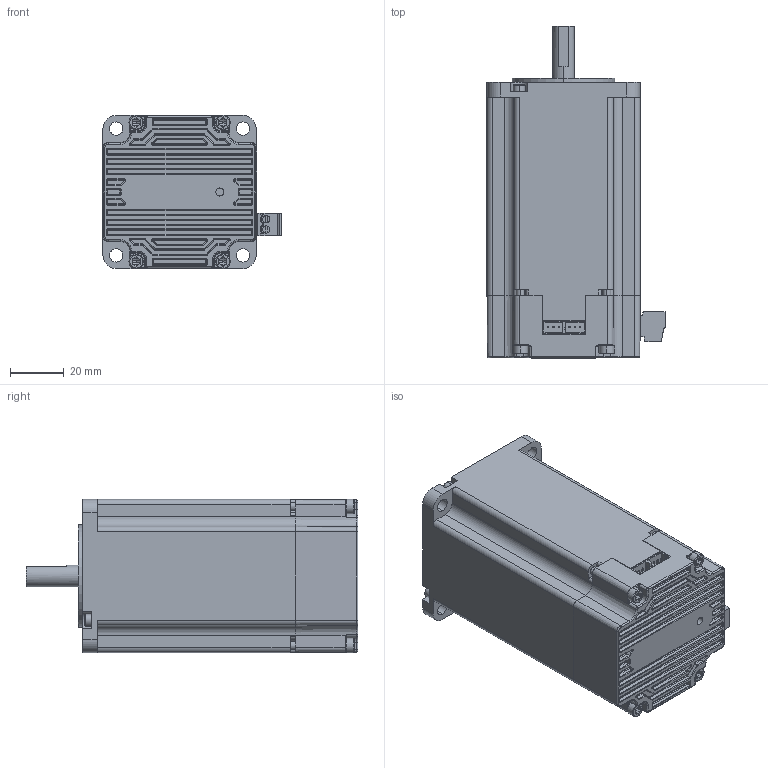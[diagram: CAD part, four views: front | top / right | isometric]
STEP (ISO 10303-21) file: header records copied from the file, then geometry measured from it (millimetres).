
FILE_DESCRIPTION((''),'2;1');
FILE_NAME('IT57AM23-D0821-24V-M','2025-05-07T14:03:55',('ruiwe'),(''),'CREO PARAMETRIC BY PTC INC, 2021063','CREO PARAMETRIC BY PTC INC, 2021063','');
FILE_SCHEMA(('CONFIG_CONTROL_DESIGN','SHAPE_APPEARANCE_LAYERS_GROUPS'));
Products named in the file (1): IT57AM23-D0821-24V-M
Bounding box: 66.25 x 123.5 x 57.24 mm (x, y, z)
Volume: 249137.6 mm3; surface area: 52825.4 mm2
Topology: 1 solids, 2 shells, 2502 faces, 5900 edges, 3450 vertices
Faces by surface type: plane 977, cylinder 922, torus 250, sphere 177, bspline 108, cone 68
Entity records: 83841 total; most frequent: CARTESIAN_POINT 19432, DIRECTION 12281, ORIENTED_EDGE 11776, EDGE_CURVE 5890, AXIS2_PLACEMENT_3D 4398, VECTOR 3485, LINE 3485, VERTEX_POINT 3450
